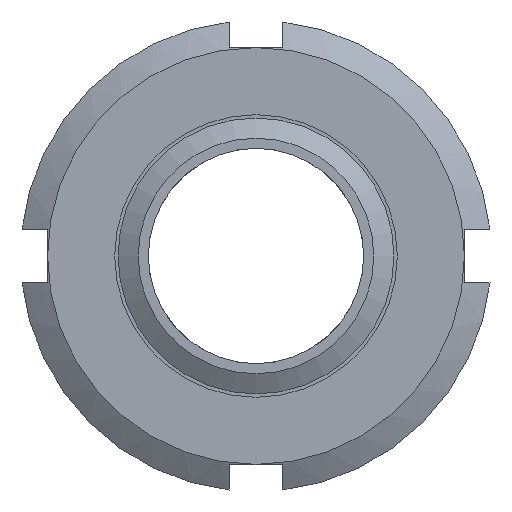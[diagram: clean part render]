
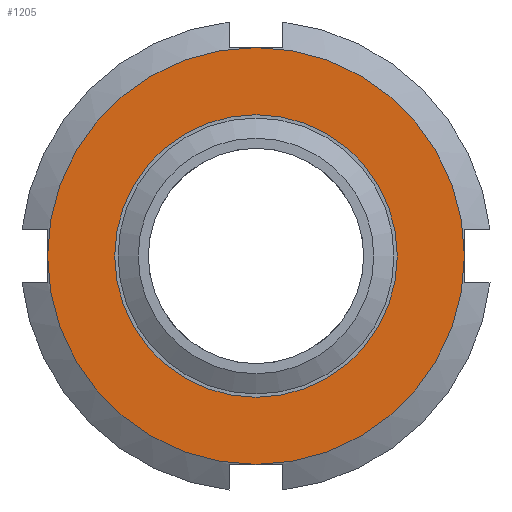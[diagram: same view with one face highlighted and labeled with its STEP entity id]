
A CAD part, front view. The second image highlights one B-rep face of the part: STEP entity #1205.
In plain terms, the highlighted planar face has unit normal (0, -1, 0) as drawn and (1, 0, 0) by its records, which use the part's own axes.
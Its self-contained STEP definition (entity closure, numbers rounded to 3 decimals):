
#170=FACE_BOUND('',#321,.T.);
#194=PLANE('',#1489);
#251=FACE_OUTER_BOUND('',#320,.T.);
#320=EDGE_LOOP('',(#1069,#1070));
#321=EDGE_LOOP('',(#1071,#1072));
#421=CIRCLE('',#1469,30.972);
#422=CIRCLE('',#1470,30.972);
#433=CIRCLE('',#1490,21.);
#434=CIRCLE('',#1491,21.);
#549=VERTEX_POINT('',#2247);
#550=VERTEX_POINT('',#2248);
#561=VERTEX_POINT('',#2304);
#562=VERTEX_POINT('',#2305);
#710=EDGE_CURVE('',#549,#550,#421,.T.);
#711=EDGE_CURVE('',#550,#549,#422,.T.);
#734=EDGE_CURVE('',#561,#562,#433,.T.);
#735=EDGE_CURVE('',#562,#561,#434,.T.);
#1069=ORIENTED_EDGE('',*,*,#710,.T.);
#1070=ORIENTED_EDGE('',*,*,#711,.T.);
#1071=ORIENTED_EDGE('',*,*,#734,.F.);
#1072=ORIENTED_EDGE('',*,*,#735,.F.);
#1205=ADVANCED_FACE('',(#251,#170),#194,.T.);
#1469=AXIS2_PLACEMENT_3D('',#2249,#1822,#1823);
#1470=AXIS2_PLACEMENT_3D('',#2250,#1824,#1825);
#1489=AXIS2_PLACEMENT_3D('',#2303,#1868,#1869);
#1490=AXIS2_PLACEMENT_3D('',#2306,#1870,#1871);
#1491=AXIS2_PLACEMENT_3D('',#2307,#1872,#1873);
#1822=DIRECTION('center_axis',(1.,0.,0.));
#1823=DIRECTION('ref_axis',(0.,0.,-1.));
#1824=DIRECTION('center_axis',(1.,0.,0.));
#1825=DIRECTION('ref_axis',(0.,0.,-1.));
#1868=DIRECTION('center_axis',(1.,0.,0.));
#1869=DIRECTION('ref_axis',(0.,0.,-1.));
#1870=DIRECTION('center_axis',(1.,0.,0.));
#1871=DIRECTION('ref_axis',(0.,0.,-1.));
#1872=DIRECTION('center_axis',(1.,0.,0.));
#1873=DIRECTION('ref_axis',(0.,0.,-1.));
#2247=CARTESIAN_POINT('',(21.,30.972,0.));
#2248=CARTESIAN_POINT('',(21.,-30.972,0.));
#2249=CARTESIAN_POINT('Origin',(21.,0.,0.));
#2250=CARTESIAN_POINT('Origin',(21.,0.,0.));
#2303=CARTESIAN_POINT('Origin',(21.,21.,0.));
#2304=CARTESIAN_POINT('',(21.,21.,0.));
#2305=CARTESIAN_POINT('',(21.,-21.,0.));
#2306=CARTESIAN_POINT('Origin',(21.,0.,0.));
#2307=CARTESIAN_POINT('Origin',(21.,0.,0.));
